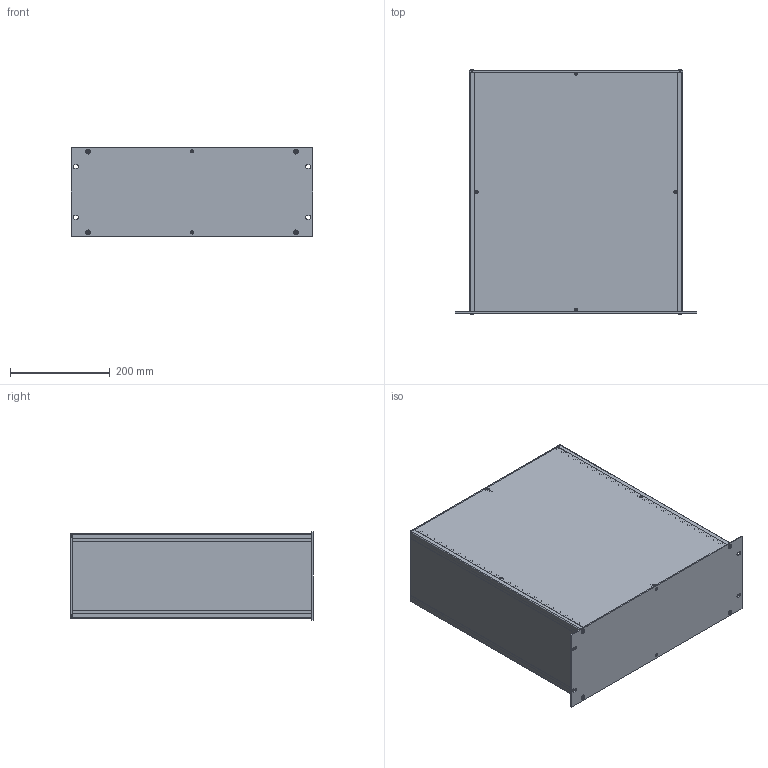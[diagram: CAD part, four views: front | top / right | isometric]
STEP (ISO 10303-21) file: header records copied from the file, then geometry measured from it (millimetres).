
FILE_DESCRIPTION(/* description */ (''),/* implementation_level */ '2;1');
FILE_NAME(/* name */ '//diskstation/Kunden/Gehäuse/Gehäuse/4HE/step/19 Zoll 3HE Rack Gehäuse Tiefe-480.step',/* time_stamp */ '2022-02-17T15:59:31+01:00',/* author */ (''),/* organization */ (''),/* preprocessor_version */ 'ST-DEVELOPER v18.1',/* originating_system */ 'Autodesk Translation Framework v10.10.0.1391',/* authorisation */ '');
FILE_SCHEMA (('AUTOMOTIVE_DESIGN { 1 0 10303 214 3 1 1 }'));
Length unit declared in the file: millimetre
Products named in the file (28): 4HE Gehäuse mit parametern; Gehäuse; Gehäuseprofil 1 unten links; Gehäuseprofil 2 oben rechts; Gehäuseprofil 1 unten rechts; Gehäuseprofil 2 oben links; Rückplatte; Deckel; Seitenteil links; Seitenteil rechts; Bodenplatte; Montageklotz Front/Deckel; Montageklotz Front/Boden; Montageklotz Rück/Deckel; Montageklotz Rück/Boden; Gewindestreifen; Frontplatte; Schrauben M5; Schraube Front; Schraube Front (1); Schraube Front (2); Schraube Front (3); Schraube Rück (1); Schraube Rück; Schraube Rück (2); Schraube Rück (3); Schrauben M3; HI_Senkschraube DIN 965 A v2 M3x5 24677.030.005(High)
Assembly tree (37 placements, depth 3):
  4HE Gehäuse mit parametern
    Gehäuse
      Gehäuseprofil 1 unten links
      Gehäuseprofil 2 oben rechts
      Gehäuseprofil 1 unten rechts
      Gehäuseprofil 2 oben links
      Rückplatte
      Deckel
      Seitenteil links
      Seitenteil rechts
      Bodenplatte
      Montageklotz Front/Deckel
      Montageklotz Front/Boden
      Montageklotz Rück/Deckel
      Montageklotz Rück/Boden
      Gewindestreifen  x2
    Frontplatte
    Schrauben M5
      Schraube Front
      Schraube Front (1)
      Schraube Front (2)
      Schraube Front (3)
      Schraube Rück (1)
      Schraube Rück
      Schraube Rück (2)
      Schraube Rück (3)
    Schrauben M3
      HI_Senkschraube DIN 965 A v2 M3x5 24677.030.005(High)  x10
Bounding box: 483 x 488.2 x 177 mm (x, y, z)
Volume: 1832056.4 mm3; surface area: 1605952.6 mm2
Topology: 34 solids, 34 shells, 944 faces, 2346 edges, 1470 vertices
Faces by surface type: cylinder 422, plane 342, cone 164, torus 8, bspline 8
Full cylindrical faces by diameter (mm): 2.529 x180, 3 x10, 3.2 x10, 4.234 x40, 5 x8, 5.2 x4, 5.3 x8, 5.6 x10, 9.5 x8
Entity records: 18600 total; most frequent: CARTESIAN_POINT 3348, DIRECTION 3135, ORIENTED_EDGE 2760, EDGE_CURVE 1380, AXIS2_PLACEMENT_3D 1195, VERTEX_POINT 868, EDGE_LOOP 866, LINE 745
